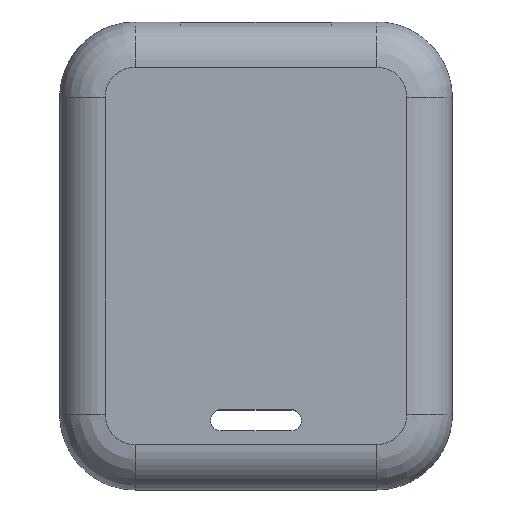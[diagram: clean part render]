
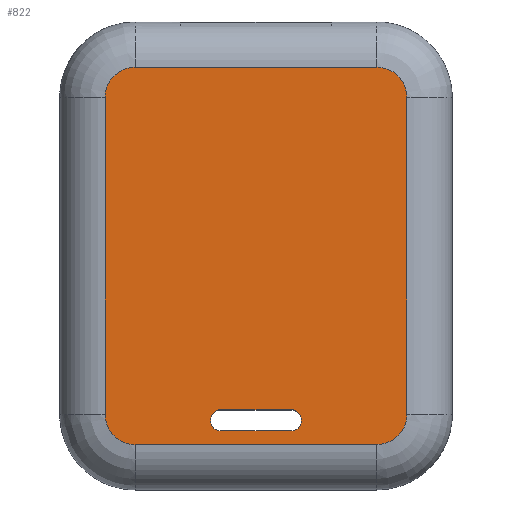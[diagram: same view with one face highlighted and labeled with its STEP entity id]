
A CAD part, top view. The second image highlights one B-rep face of the part: STEP entity #822.
In plain terms, the highlighted planar face has unit normal (0, 0, 1).
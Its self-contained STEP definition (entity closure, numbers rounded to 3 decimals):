
#11=DIRECTION('',(0.0,0.0,1.0));
#12=DIRECTION('',(1.0,0.0,0.0));
#20=DIRECTION('',(-1.0,0.0,0.0));
#24=VECTOR('',#12,4.7);
#156=VECTOR('',#20,16.0);
#175=DIRECTION('',(0.0,1.0,0.0));
#208=DIRECTION('',(0.0,-1.0,0.0));
#357=CARTESIAN_POINT('',(10.0,4.55,7.0));
#358=VERTEX_POINT('',#357);
#361=CARTESIAN_POINT('',(10.0,4.55,7.0));
#362=CARTESIAN_POINT('',(10.0,4.426,7.0));
#363=CARTESIAN_POINT('',(10.095,4.186,7.0));
#364=CARTESIAN_POINT('',(10.286,3.995,7.0));
#365=CARTESIAN_POINT('',(10.526,3.9,7.0));
#366=CARTESIAN_POINT('',(10.65,3.9,7.0));
#367=(BOUNDED_CURVE()B_SPLINE_CURVE(2,(#366,#365,#364,#363,#362,#361),.UNSPECIFIED.,.U.,.U.)B_SPLINE_CURVE_WITH_KNOTS((3,1,1,1,3),(0.0,0.25,0.5,0.75,1.0),.UNSPECIFIED.)CURVE()GEOMETRIC_REPRESENTATION_ITEM()RATIONAL_B_SPLINE_CURVE((1.0,0.927,0.854,0.854,0.927,1.0))REPRESENTATION_ITEM(''));
#368=VERTEX_POINT('',#366);
#369=EDGE_CURVE('',#368,#358,#367,.T.);
#384=CARTESIAN_POINT('',(10.,4.65,7.0));
#385=VERTEX_POINT('',#384);
#388=DIRECTION('',(0.,1.0,0.0));
#389=VECTOR('',#388,0.1);
#390=LINE('',#357,#389);
#391=EDGE_CURVE('',#358,#385,#390,.T.);
#404=CARTESIAN_POINT('',(10.65,5.3,7.0));
#405=VERTEX_POINT('',#404);
#408=CARTESIAN_POINT('',(10.526,5.3,7.0));
#409=CARTESIAN_POINT('',(10.286,5.205,7.));
#410=CARTESIAN_POINT('',(10.095,5.014,7.));
#411=CARTESIAN_POINT('',(10.,4.774,7.0));
#412=(BOUNDED_CURVE()B_SPLINE_CURVE(2,(#384,#411,#410,#409,#408,#404),.UNSPECIFIED.,.U.,.U.)B_SPLINE_CURVE_WITH_KNOTS((3,1,1,1,3),(0.0,0.25,0.5,0.75,1.0),.UNSPECIFIED.)CURVE()GEOMETRIC_REPRESENTATION_ITEM()RATIONAL_B_SPLINE_CURVE((1.0,0.927,0.854,0.854,0.927,1.0))REPRESENTATION_ITEM(''));
#413=EDGE_CURVE('',#385,#405,#412,.T.);
#425=CARTESIAN_POINT('',(15.35,5.3,7.0));
#426=VERTEX_POINT('',#425);
#429=DIRECTION('',(-1.0,0.,0.0));
#430=VECTOR('',#429,4.7);
#431=LINE('',#425,#430);
#432=EDGE_CURVE('',#426,#405,#431,.T.);
#445=CARTESIAN_POINT('',(16.0,4.65,7.0));
#446=VERTEX_POINT('',#445);
#449=CARTESIAN_POINT('',(15.474,5.3,7.0));
#450=CARTESIAN_POINT('',(15.714,5.205,7.0));
#451=CARTESIAN_POINT('',(15.905,5.014,7.0));
#452=CARTESIAN_POINT('',(16.0,4.774,7.0));
#453=(BOUNDED_CURVE()B_SPLINE_CURVE(2,(#445,#452,#451,#450,#449,#425),.UNSPECIFIED.,.U.,.U.)B_SPLINE_CURVE_WITH_KNOTS((3,1,1,1,3),(0.0,0.25,0.5,0.75,1.0),.UNSPECIFIED.)CURVE()GEOMETRIC_REPRESENTATION_ITEM()RATIONAL_B_SPLINE_CURVE((1.0,0.927,0.854,0.854,0.927,1.0))REPRESENTATION_ITEM(''));
#454=EDGE_CURVE('',#446,#426,#453,.T.);
#467=CARTESIAN_POINT('',(16.0,4.55,7.));
#468=VERTEX_POINT('',#467);
#471=DIRECTION('',(0.0,1.0,0.));
#472=VECTOR('',#471,0.1);
#473=LINE('',#467,#472);
#474=EDGE_CURVE('',#468,#446,#473,.T.);
#486=CARTESIAN_POINT('',(15.35,3.9,7.0));
#487=VERTEX_POINT('',#486);
#490=CARTESIAN_POINT('',(16.,4.55,7.));
#491=CARTESIAN_POINT('',(16.,4.426,7.));
#492=CARTESIAN_POINT('',(15.905,4.186,7.0));
#493=CARTESIAN_POINT('',(15.714,3.995,7.));
#494=CARTESIAN_POINT('',(15.474,3.9,7.0));
#495=(BOUNDED_CURVE()B_SPLINE_CURVE(2,(#486,#494,#493,#492,#491,#490),.UNSPECIFIED.,.U.,.U.)B_SPLINE_CURVE_WITH_KNOTS((3,1,1,1,3),(0.0,0.25,0.5,0.75,1.0),.UNSPECIFIED.)CURVE()GEOMETRIC_REPRESENTATION_ITEM()RATIONAL_B_SPLINE_CURVE((1.0,0.927,0.854,0.854,0.927,1.0))REPRESENTATION_ITEM(''));
#496=EDGE_CURVE('',#487,#468,#495,.T.);
#507=LINE('',#366,#24);
#508=EDGE_CURVE('',#368,#487,#507,.T.);
#530=CARTESIAN_POINT('',(5.0,3.,7.0));
#534=VERTEX_POINT('',#530);
#552=CARTESIAN_POINT('',(3.,5.,7.0));
#554=VERTEX_POINT('',#552);
#557=CARTESIAN_POINT('',(5.,3.,7.0));
#558=CARTESIAN_POINT('',(4.619,3.,7.0));
#559=CARTESIAN_POINT('',(3.879,3.293,7.0));
#560=CARTESIAN_POINT('',(3.293,3.879,7.));
#561=CARTESIAN_POINT('',(3.,4.619,7.0));
#562=(BOUNDED_CURVE()B_SPLINE_CURVE(2,(#552,#561,#560,#559,#558,#557),.UNSPECIFIED.,.U.,.U.)B_SPLINE_CURVE_WITH_KNOTS((3,1,1,1,3),(0.0,0.25,0.5,0.75,1.0),.UNSPECIFIED.)CURVE()GEOMETRIC_REPRESENTATION_ITEM()RATIONAL_B_SPLINE_CURVE((1.0,0.927,0.854,0.854,0.927,1.0))REPRESENTATION_ITEM(''));
#563=EDGE_CURVE('',#554,#534,#562,.T.);
#573=VECTOR('',#208,21.0);
#584=CARTESIAN_POINT('',(3.,26.0,7.0));
#586=VERTEX_POINT('',#584);
#589=LINE('',#584,#573);
#590=EDGE_CURVE('',#586,#554,#589,.T.);
#621=CARTESIAN_POINT('',(5.0,28.0,7.0));
#623=VERTEX_POINT('',#621);
#626=CARTESIAN_POINT('',(3.,26.0,7.0));
#627=CARTESIAN_POINT('',(3.,26.381,7.0));
#628=CARTESIAN_POINT('',(3.293,27.121,7.0));
#629=CARTESIAN_POINT('',(3.879,27.707,7.0));
#630=CARTESIAN_POINT('',(4.619,28.0,7.0));
#631=(BOUNDED_CURVE()B_SPLINE_CURVE(2,(#621,#630,#629,#628,#627,#626),.UNSPECIFIED.,.U.,.U.)B_SPLINE_CURVE_WITH_KNOTS((3,1,1,1,3),(0.0,0.25,0.5,0.75,1.0),.UNSPECIFIED.)CURVE()GEOMETRIC_REPRESENTATION_ITEM()RATIONAL_B_SPLINE_CURVE((1.0,0.927,0.854,0.854,0.927,1.0))REPRESENTATION_ITEM(''));
#632=EDGE_CURVE('',#623,#586,#631,.T.);
#655=CARTESIAN_POINT('',(21.0,28.0,7.0));
#657=VERTEX_POINT('',#655);
#660=LINE('',#655,#156);
#661=EDGE_CURVE('',#657,#623,#660,.T.);
#699=CARTESIAN_POINT('',(23.0,26.0,7.0));
#701=VERTEX_POINT('',#699);
#704=CARTESIAN_POINT('',(21.381,28.0,7.0));
#705=CARTESIAN_POINT('',(22.121,27.707,7.));
#706=CARTESIAN_POINT('',(22.707,27.121,7.));
#707=CARTESIAN_POINT('',(23.0,26.381,7.0));
#708=(BOUNDED_CURVE()B_SPLINE_CURVE(2,(#699,#707,#706,#705,#704,#655),.UNSPECIFIED.,.U.,.U.)B_SPLINE_CURVE_WITH_KNOTS((3,1,1,1,3),(0.0,0.25,0.5,0.75,1.0),.UNSPECIFIED.)CURVE()GEOMETRIC_REPRESENTATION_ITEM()RATIONAL_B_SPLINE_CURVE((1.0,0.927,0.854,0.854,0.927,1.0))REPRESENTATION_ITEM(''));
#709=EDGE_CURVE('',#701,#657,#708,.T.);
#719=VECTOR('',#175,21.0);
#730=CARTESIAN_POINT('',(23.0,5.,7.0));
#732=VERTEX_POINT('',#730);
#735=LINE('',#730,#719);
#736=EDGE_CURVE('',#732,#701,#735,.T.);
#767=CARTESIAN_POINT('',(21.0,3.,7.0));
#769=VERTEX_POINT('',#767);
#772=CARTESIAN_POINT('',(23.0,5.,7.0));
#773=CARTESIAN_POINT('',(23.0,4.619,7.0));
#774=CARTESIAN_POINT('',(22.707,3.879,7.0));
#775=CARTESIAN_POINT('',(22.121,3.293,7.0));
#776=CARTESIAN_POINT('',(21.381,3.,7.0));
#777=(BOUNDED_CURVE()B_SPLINE_CURVE(2,(#767,#776,#775,#774,#773,#772),.UNSPECIFIED.,.U.,.U.)B_SPLINE_CURVE_WITH_KNOTS((3,1,1,1,3),(0.0,0.25,0.5,0.75,1.0),.UNSPECIFIED.)CURVE()GEOMETRIC_REPRESENTATION_ITEM()RATIONAL_B_SPLINE_CURVE((1.0,0.927,0.854,0.854,0.927,1.0))REPRESENTATION_ITEM(''));
#778=EDGE_CURVE('',#769,#732,#777,.T.);
#788=VECTOR('',#12,16.0);
#793=LINE('',#530,#788);
#794=EDGE_CURVE('',#534,#769,#793,.T.);
#799=CARTESIAN_POINT('',(26.,31.,7.0));
#800=AXIS2_PLACEMENT_3D('',#799,#11,#20);
#801=PLANE('',#800);
#802=ORIENTED_EDGE('',*,*,#508,.F.);
#803=ORIENTED_EDGE('',*,*,#496,.F.);
#804=ORIENTED_EDGE('',*,*,#474,.F.);
#805=ORIENTED_EDGE('',*,*,#454,.F.);
#806=ORIENTED_EDGE('',*,*,#432,.F.);
#807=ORIENTED_EDGE('',*,*,#413,.T.);
#808=ORIENTED_EDGE('',*,*,#391,.T.);
#809=ORIENTED_EDGE('',*,*,#369,.T.);
#810=EDGE_LOOP('',(#809,#808,#807,#806,#805,#804,#803,#802));
#811=FACE_BOUND('',#810,.T.);
#812=ORIENTED_EDGE('',*,*,#563,.T.);
#813=ORIENTED_EDGE('',*,*,#590,.T.);
#814=ORIENTED_EDGE('',*,*,#632,.T.);
#815=ORIENTED_EDGE('',*,*,#661,.T.);
#816=ORIENTED_EDGE('',*,*,#709,.T.);
#817=ORIENTED_EDGE('',*,*,#736,.T.);
#818=ORIENTED_EDGE('',*,*,#778,.T.);
#819=ORIENTED_EDGE('',*,*,#794,.T.);
#820=EDGE_LOOP('',(#819,#818,#817,#816,#815,#814,#813,#812));
#821=FACE_BOUND('',#820,.T.);
#822=ADVANCED_FACE('',(#821,#811),#801,.T.);
